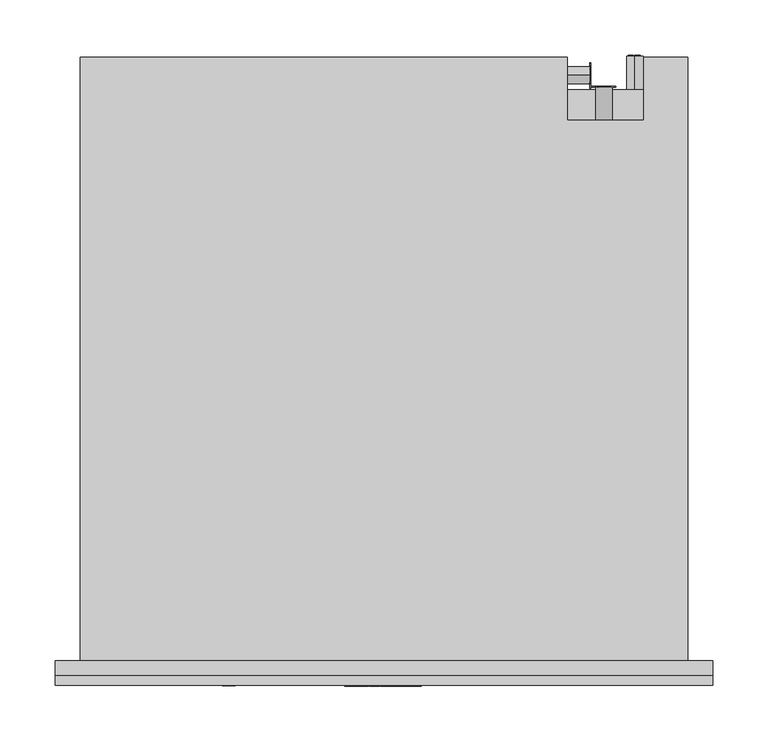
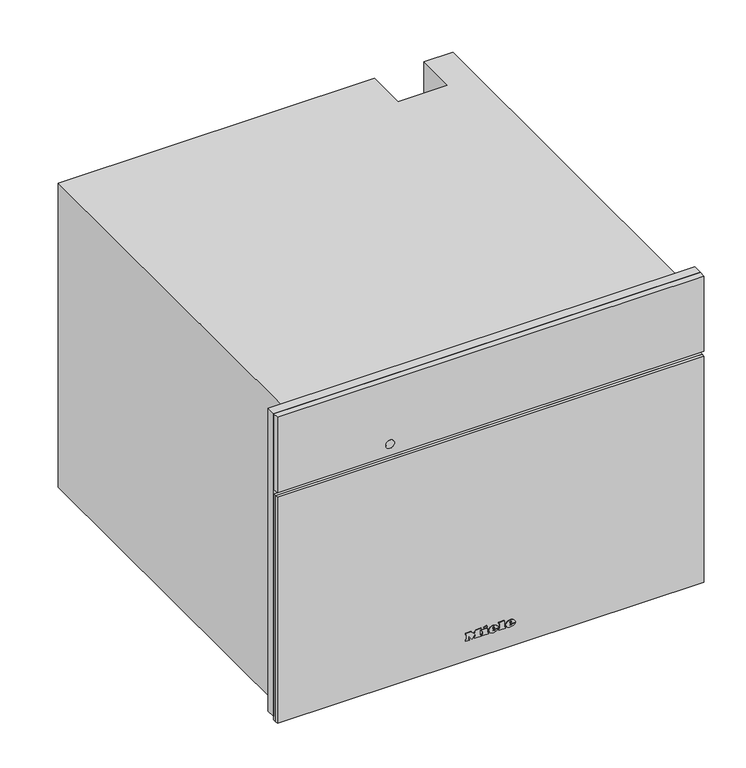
"""IFC4 building model written with IfcOpenShell, lengths in millimetres: proxy geometry, 12305570_D_DGC7845HCXPro_OBSWM : 23784588_D_12305570_DGC7845HCXPro_OBSWM."""

from ifc_helpers import new_model, si_unit, point, frame, frame_2d, origin, place, context, project, spatial, polyline, circle_curve, ellipse_curve, trimmed, segment, composite_curve, outline, extrude, faceted_brep, source, transform, mapped, element, save
from ifc_brep_helpers import plane_surface, cylinder_surface, revolved_surface, extruded_surface, advanced_brep


def specialty_equipment_60738759(model_context):
    return source(origin(), model_context, "Body", "SolidModel", [
        extrude(outline(polyline([(455.0, 297.5), (455.0, -297.5), (9.0, -297.5), (9.0, 297.5), (455.0, 297.5)]), holes=[polyline([(344.0, -272.5), (344.0, 272.5), (27.0, 272.5), (27.0, -272.5), (344.0, -272.5)])]), frame((0.0, -13.0, 0.0), z_axis=(0.0, 1.0, 0.0), x_axis=(0.0, 0.0, 1.0)), (0.0, 0.0, 1.0), 13.0),
        extrude(outline(polyline([(383.0, 196.9217896), (383.0, 198.4267862), (393.0435673, 201.1942402), (393.0435673, 199.9014806), (384.4295103, 197.7797951), (393.0470645, 195.3087512), (393.0470645, 193.4373937), (384.4121052, 190.9191482), (393.0472266, 188.8443938), (393.0472266, 187.5376524), (383.0, 190.2769667), (383.0, 191.6257455), (391.8347238, 194.3884733), (383.0, 196.9217896)])), frame((0.0, 519.0, 0.0), z_axis=(0.0, 1.0, 0.0), x_axis=(0.0, 0.0, 1.0)), (0.0, 0.0, 1.0), 1.0),
        extrude(outline(polyline([(393.0468463, 209.521488), (393.0468463, 208.2566067), (388.129594, 208.2566067), (393.0474898, 203.1074328), (393.0474898, 201.3597489), (388.9313111, 205.6695027), (383.0, 201.1858157), (383.0, 202.7358731), (388.0700777, 206.5685235), (386.4282746, 208.2823622), (383.0, 208.2823622), (383.0, 209.521488), (393.0468463, 209.521488)])), frame((0.0, 519.0, 0.0), z_axis=(0.0, 1.0, 0.0), x_axis=(0.0, 0.0, 1.0)), (0.0, 0.0, 1.0), 1.0),
        extrude(outline(polyline([(518.3136153, 20.0), (522.323529, 30.045631), (523.3928394, 30.045631), (527.4027531, 20.0), (526.0759254, 20.0), (524.925681, 23.1392597), (520.7882348, 23.1392597), (519.640443, 20.0), (518.3136153, 20.0)]), holes=[polyline([(521.2493136, 24.3949636), (524.4670548, 24.3949636), (523.5620651, 26.864678), (522.8581842, 28.7899271), (522.2327848, 27.0805021), (521.2493136, 24.3949636)])]), frame((186.0, 0.0, 0.0), z_axis=(1.0, 0.0, 0.0), x_axis=(0.0, 1.0, 0.0)), (0.0, 0.0, 1.0), 1.0),
        extrude(outline(polyline([(530.5420128, 20.0), (527.8025182, 30.045631), (529.0974628, 30.045631), (530.6867131, 23.4433755), (531.1772224, 21.4053092), (531.7020674, 23.207931), (533.6935352, 30.045631), (535.5599232, 30.045631), (537.0069257, 25.0890343), (538.0835937, 21.4053092), (538.5593878, 23.3845144), (540.1633533, 30.045631), (541.4582979, 30.045631), (538.7163507, 20.0), (537.3748077, 20.0), (534.9664069, 27.7500474), (534.630408, 28.8316204), (534.2527159, 27.5293182), (532.0576866, 20.0), (530.5420128, 20.0)])), frame((186.0, 0.0, 0.0), z_axis=(1.0, 0.0, 0.0), x_axis=(0.0, 1.0, 0.0)), (0.0, 0.0, 1.0), 1.0),
        advanced_brep(
        [(227.0, 547.0, 255.5), (227.0, 547.0, 240.5), (221.4098301, 547.0, 243.0), (225.5, 547.0, 243.0), (225.5, 547.0, 253.0), (224.4955303, 547.0, 253.0), (224.4955303, 547.0, 244.0), (221.0315043, 547.0, 244.0), (221.0315043, 547.0, 243.4582978), (232.0, 547.0, 243.0), (232.0, 547.0, 253.0), (227.0, 547.0, 253.0), (227.0, 547.0, 252.0), (231.0, 547.0, 252.0), (231.0, 547.0, 248.5), (228.0, 547.0, 248.5), (228.0, 547.0, 247.5), (231.0, 547.0, 247.5), (231.0, 547.0, 244.0), (227.0, 547.0, 244.0), (227.0, 547.0, 243.0), (227.0, 517.0, 240.5), (227.0, 517.0, 255.5), (232.0, 548.0, 253.0), (232.0, 548.0, 243.0), (227.0, 548.0, 243.0), (227.0, 548.0, 244.0), (231.0, 548.0, 244.0), (231.0, 548.0, 247.5), (228.0, 548.0, 247.5), (228.0, 548.0, 248.5), (231.0, 548.0, 248.5), (231.0, 548.0, 252.0), (227.0, 548.0, 252.0), (227.0, 548.0, 253.0), (225.5, 548.0, 243.0), (221.0315043, 548.0, 243.0), (221.0315043, 548.0, 244.0), (224.4955303, 548.0, 244.0), (224.4955303, 548.0, 253.0), (225.5, 548.0, 253.0), (221.0315043, 547.0, 243.0)],
        [
            (0, 1, circle_curve(frame((227.0, 547.0, 248.0), z_axis=(0.0, 1.0, 0.0), x_axis=(0.0, 0.0, 1.0)), 7.5)),
            (1, 2, circle_curve(frame((227.0, 547.0, 248.0), z_axis=(0.0, 1.0, 0.0), x_axis=(0.0, 0.0, 1.0)), 7.5)),
            (2, 3),
            (3, 4),
            (4, 5),
            (5, 6),
            (6, 7),
            (7, 8),
            (8, 0, circle_curve(frame((227.0, 547.0, 248.0), z_axis=(0.0, 1.0, 0.0), x_axis=(0.0, 0.0, 1.0)), 7.5)),
            (9, 10),
            (10, 11),
            (11, 12),
            (12, 13),
            (13, 14),
            (14, 15),
            (15, 16),
            (16, 17),
            (17, 18),
            (18, 19),
            (19, 20),
            (20, 9),
            (21, 22, circle_curve(frame((227.0, 517.0, 248.0), z_axis=(0.0, -1.0, 0.0), x_axis=(0.0, 0.0, 1.0)), 7.5)),
            (22, 21, circle_curve(frame((227.0, 517.0, 248.0), z_axis=(0.0, -1.0, 0.0), x_axis=(0.0, 0.0, 1.0)), 7.5)),
            (0, 22),
            (21, 1),
            (8, 2, circle_curve(frame((227.0, 547.0, 248.0), z_axis=(0.0, -1.0, 0.0), x_axis=(0.0, 0.0, 1.0)), 7.5)),
            (23, 24),
            (24, 25),
            (25, 26),
            (26, 27),
            (27, 28),
            (28, 29),
            (29, 30),
            (30, 31),
            (31, 32),
            (32, 33),
            (33, 34),
            (34, 23),
            (35, 36),
            (36, 37),
            (37, 38),
            (38, 39),
            (39, 40),
            (40, 35),
            (8, 41),
            (41, 2),
            (23, 10),
            (9, 24),
            (20, 25),
            (19, 26),
            (18, 27),
            (17, 28),
            (16, 29),
            (15, 30),
            (14, 31),
            (13, 32),
            (12, 33),
            (11, 34),
            (35, 3),
            (41, 36),
            (7, 37),
            (6, 38),
            (5, 39),
            (4, 40),
        ],
        [
            plane_surface(frame((227.0, 547.0, 255.5), z_axis=(0.0, 1.0, 0.0), x_axis=(1.0, 0.0, 0.0))),
            plane_surface(frame((227.0, 517.0, 255.5), z_axis=(0.0, -1.0, 0.0), x_axis=(-1.0, 0.0, 0.0))),
            cylinder_surface(frame((227.0, 547.0, 248.0), z_axis=(0.0, -1.0, 0.0), x_axis=(0.0, 0.0, 1.0)), 7.5),
            plane_surface(frame((232.0, 548.0, 253.0), z_axis=(0.0, 1.0, 0.0), x_axis=(0.0, 0.0, -1.0))),
            plane_surface(frame((232.0, 547.0, 253.0), z_axis=(0.0, -1.0, 0.0), x_axis=(0.0, 0.0, 1.0))),
            plane_surface(frame((232.0, 548.0, 253.0), z_axis=(1.0, 0.0, 0.0), x_axis=(0.0, -1.0, 0.0))),
            plane_surface(frame((232.0, 548.0, 243.0), z_axis=(0.0, 0.0, -1.0), x_axis=(0.0, -1.0, 0.0))),
            plane_surface(frame((227.0, 548.0, 243.0), z_axis=(-1.0, 0.0, 0.0), x_axis=(0.0, -1.0, 0.0))),
            plane_surface(frame((227.0, 548.0, 244.0), z_axis=(0.0, 0.0, 1.0), x_axis=(0.0, -1.0, 0.0))),
            plane_surface(frame((231.0, 548.0, 244.0), z_axis=(-1.0, 0.0, 0.0), x_axis=(0.0, -1.0, 0.0))),
            plane_surface(frame((231.0, 548.0, 247.5), z_axis=(0.0, 0.0, -1.0), x_axis=(0.0, -1.0, 0.0))),
            plane_surface(frame((228.0, 548.0, 247.5), z_axis=(-1.0, 0.0, 0.0), x_axis=(0.0, -1.0, 0.0))),
            plane_surface(frame((228.0, 548.0, 248.5), z_axis=(0.0, 0.0, 1.0), x_axis=(0.0, -1.0, 0.0))),
            plane_surface(frame((231.0, 548.0, 248.5), z_axis=(-1.0, 0.0, 0.0), x_axis=(0.0, -1.0, 0.0))),
            plane_surface(frame((231.0, 548.0, 252.0), z_axis=(0.0, 0.0, -1.0), x_axis=(0.0, -1.0, 0.0))),
            plane_surface(frame((227.0, 548.0, 252.0), z_axis=(-1.0, 0.0, 0.0), x_axis=(0.0, -1.0, 0.0))),
            plane_surface(frame((227.0, 548.0, 253.0), z_axis=(0.0, 0.0, 1.0), x_axis=(0.0, -1.0, 0.0))),
            plane_surface(frame((225.5, 548.0, 243.0), z_axis=(0.0, 0.0, -1.0), x_axis=(0.0, -1.0, 0.0))),
            plane_surface(frame((221.0315043, 548.0, 243.0), z_axis=(-1.0, 0.0, 0.0), x_axis=(0.0, -1.0, 0.0))),
            plane_surface(frame((221.0315043, 548.0, 244.0), z_axis=(0.0, 0.0, 1.0), x_axis=(0.0, -1.0, 0.0))),
            plane_surface(frame((224.4955303, 548.0, 244.0), z_axis=(-1.0, 0.0, 0.0), x_axis=(0.0, -1.0, 0.0))),
            plane_surface(frame((224.4955303, 548.0, 253.0), z_axis=(0.0, 0.0, 1.0), x_axis=(0.0, -1.0, 0.0))),
            plane_surface(frame((225.5, 548.0, 253.0), z_axis=(1.0, 0.0, 0.0), x_axis=(0.0, -1.0, 0.0))),
        ],
        [
            (0, [[1, 2, 3, 4, 5, 6, 7, 8, 9], [10, 11, 12, 13, 14, 15, 16, 17, 18, 19, 20, 21]]),
            (1, [[22, 23]]),
            (2, [[-1, 24, -22, 25]]),
            (2, [[-23, -24, -9, 26, -2, -25]]),
            (3, [[27, 28, 29, 30, 31, 32, 33, 34, 35, 36, 37, 38]]),
            (3, [[39, 40, 41, 42, 43, 44]]),
            (4, [[45, 46, -26]]),
            (5, [[-27, 47, -10, 48]]),
            (6, [[-28, -48, -21, 49]]),
            (7, [[-29, -49, -20, 50]]),
            (8, [[-30, -50, -19, 51]]),
            (9, [[-31, -51, -18, 52]]),
            (10, [[-32, -52, -17, 53]]),
            (11, [[-33, -53, -16, 54]]),
            (12, [[-34, -54, -15, 55]]),
            (13, [[-35, -55, -14, 56]]),
            (14, [[-36, -56, -13, 57]]),
            (15, [[-37, -57, -12, 58]]),
            (16, [[-38, -58, -11, -47]]),
            (17, [[-39, 59, -3, -46, 60]]),
            (18, [[-40, -60, -45, -8, 61]]),
            (19, [[-41, -61, -7, 62]]),
            (20, [[-42, -62, -6, 63]]),
            (21, [[-43, -63, -5, 64]]),
            (22, [[-44, -64, -4, -59]]),
        ],
    ),
        extrude(outline(composite_curve([segment(trimmed(circle_curve(frame_2d((388.0, 199.0)), 7.5), [point((388.0, 206.5))], [point((388.0, 191.5))], False, "CARTESIAN"), True, "CONTINUOUS"), segment(trimmed(circle_curve(frame_2d((388.0, 199.0)), 7.5), [point((388.0, 191.5))], [point((388.0, 206.5))], False, "CARTESIAN"), True, "CONTINUOUS")], self_intersect=False)), frame((0.0, 489.0, 0.0), z_axis=(0.0, 1.0, 0.0), x_axis=(0.0, 0.0, 1.0)), (0.0, 0.0, 1.0), 30.0),
        extrude(outline(composite_curve([segment(trimmed(circle_curve(frame_2d((530.0, 25.0)), 7.5), [point((530.0, 17.5))], [point((530.0, 32.5))], False, "CARTESIAN"), True, "CONTINUOUS"), segment(trimmed(circle_curve(frame_2d((530.0, 25.0)), 7.5), [point((530.0, 32.5))], [point((530.0, 17.5))], False, "CARTESIAN"), True, "CONTINUOUS")], self_intersect=False)), frame((166.0, 0.0, 0.0), z_axis=(1.0, 0.0, 0.0), x_axis=(0.0, 1.0, 0.0)), (0.0, 0.0, 1.0), 20.0),
        faceted_brep([(-275.0, 546.0, 0.0), (-275.0, 546.0, 448.0), (166.0, 546.0, 448.0), (166.0, 546.0, 0.0), (235.0, 546.0, 448.0), (275.0, 546.0, 448.0), (275.0, 546.0, 338.0), (235.0, 546.0, 338.0), (275.0, 0.0, 448.0), (-275.0, 0.0, 448.0), (-275.0, 0.0, 0.0), (275.0, 0.0, 0.0), (-272.5, 0.0, 344.0), (272.5, 0.0, 344.0), (272.5, 0.0, 27.0), (-272.5, 0.0, 27.0), (235.0, 489.0, 448.0), (166.0, 489.0, 448.0), (166.0, 517.0, 0.0), (275.0, 517.0, 0.0), (275.0, 517.0, 338.0), (272.5, 17.0, 344.0), (-272.5, 17.0, 344.0), (-272.5, 17.0, 27.0), (272.5, 17.0, 27.0), (231.0, 17.0, 307.0), (231.0, 17.0, 65.0), (-231.0, 17.0, 65.0), (-231.0, 17.0, 307.0), (231.0, 411.0, 307.0), (-231.0, 411.0, 307.0), (-231.0, 411.0, 65.0), (231.0, 411.0, 65.0), (235.0, 489.0, 337.0), (166.0, 489.0, 337.0), (166.0, 517.0, 337.0), (235.0, 517.0, 337.0), (235.0, 517.0, 338.0)], [[[0, 1, 2, 3]], [[4, 5, 6, 7]], [[8, 9, 10, 11], [12, 13, 14, 15]], [[9, 8, 5, 4, 16, 17, 2, 1]], [[1, 0, 10, 9]], [[11, 10, 0, 3, 18, 19]], [[8, 11, 19, 20, 6, 5]], [[21, 22, 23, 24], [25, 26, 27, 28]], [[22, 21, 13, 12]], [[23, 22, 12, 15]], [[24, 23, 15, 14]], [[21, 24, 14, 13]], [[29, 30, 31, 32]], [[29, 32, 26, 25]], [[32, 31, 27, 26]], [[31, 30, 28, 27]], [[30, 29, 25, 28]], [[16, 33, 34, 17]], [[17, 34, 35, 18, 3, 2]], [[34, 33, 36, 35]], [[33, 16, 4, 7, 37, 36]], [[37, 20, 19, 18, 35, 36]], [[20, 37, 7, 6]]]),
        advanced_brep(
        [(26.2998, -23.0, 36.7018), (26.2998, -23.0, 37.8532), (33.9264, -23.0, 37.8532), (20.6568, -23.0, 37.8532), (23.7918, -23.0, 34.0), (33.7326, -23.0, 36.7018), (30.2898, -23.0, 36.7018), (27.5766, -23.0, 35.425), (26.2998, -23.0, 39.3124), (26.2998, -23.0, 40.555), (28.2492, -23.0, 40.555), (28.2492, -23.0, 39.3124), (26.2998, -22.0, 36.7018), (27.5766, -22.0, 35.425), (30.2898, -22.0, 36.7018), (33.7326, -22.0, 36.7018), (23.7918, -22.0, 34.0), (20.6568, -22.0, 37.8532), (33.9264, -22.0, 37.8532), (26.2998, -22.0, 37.8532), (26.2998, -22.0, 39.3124), (28.2492, -22.0, 39.3124), (28.2492, -22.0, 40.555), (26.2998, -22.0, 40.555)],
        [
            (0, 1),
            (1, 2),
            (2, 3, ellipse_curve(frame((27.2916, -23.0, 37.8532), z_axis=(0.0, -1.0, 0.0), x_axis=(-1.0, 0.0, 0.0)), 6.6348, 5.4834)),
            (3, 4, circle_curve(frame((25.0686622, -23.0, 38.2408), z_axis=(0.0, -1.0, 0.0), x_axis=(0.0, 0.0, -1.0)), 4.4288556)),
            (4, 5, circle_curve(frame((27.1587808, -23.0, 41.2504), z_axis=(0.0, -1.0, 0.0), x_axis=(0.0, 0.0, -1.0)), 7.9940516)),
            (5, 6),
            (6, 7, circle_curve(frame((28.1338588, -23.0, 37.762), z_axis=(0.0, 1.0, 0.0), x_axis=(0.0, 0.0, -1.0)), 2.4025208)),
            (7, 0, circle_curve(frame((27.5766, -23.0, 36.7018), z_axis=(0.0, 1.0, 0.0), x_axis=(0.0, 0.0, -1.0)), 1.2768)),
            (8, 9),
            (9, 10, circle_curve(frame((27.2745, -23.0, 40.555), z_axis=(0.0, 1.0, 0.0), x_axis=(0.0, 0.0, -1.0)), 0.9747)),
            (10, 11),
            (11, 8),
            (12, 13, circle_curve(frame((27.5766, -22.0, 36.7018), z_axis=(0.0, -1.0, 0.0), x_axis=(0.0, 0.0, -1.0)), 1.2768)),
            (13, 14, circle_curve(frame((28.1338588, -22.0, 37.762), z_axis=(0.0, -1.0, 0.0), x_axis=(0.0, 0.0, -1.0)), 2.4025208)),
            (14, 15),
            (15, 16, circle_curve(frame((27.1587808, -22.0, 41.2504), z_axis=(0.0, 1.0, 0.0), x_axis=(0.0, 0.0, -1.0)), 7.9940516)),
            (16, 17, circle_curve(frame((25.0686622, -22.0, 38.2408), z_axis=(0.0, 1.0, 0.0), x_axis=(0.0, 0.0, -1.0)), 4.4288556)),
            (17, 18, ellipse_curve(frame((27.2916, -22.0, 37.8532), z_axis=(0.0, 1.0, 0.0), x_axis=(-1.0, 0.0, 0.0)), 6.6348, 5.4834)),
            (18, 19),
            (19, 12),
            (20, 21),
            (21, 22),
            (22, 23, circle_curve(frame((27.2745, -22.0, 40.555), z_axis=(0.0, -1.0, 0.0), x_axis=(0.0, 0.0, -1.0)), 0.9747)),
            (23, 20),
            (0, 12),
            (19, 1),
            (18, 2),
            (5, 15),
            (14, 6),
            (17, 3),
            (13, 7),
            (16, 4),
            (8, 20),
            (23, 9),
            (22, 10),
            (21, 11),
        ],
        [
            plane_surface(frame((26.2998, -23.0, 37.8532), z_axis=(0.0, -1.0, 0.0), x_axis=(0.0, 0.0, 1.0))),
            plane_surface(frame((26.2998, -22.0, 37.8532), z_axis=(0.0, 1.0, 0.0), x_axis=(0.0, 0.0, -1.0))),
            plane_surface(frame((26.2998, -23.0, 36.7018), z_axis=(1.0, 0.0, 0.0), x_axis=(0.0, 1.0, 0.0))),
            plane_surface(frame((26.2998, -23.0, 37.8532), z_axis=(0.0, 0.0, -1.0), x_axis=(0.0, 1.0, 0.0))),
            plane_surface(frame((33.7326, -23.0, 36.7018), z_axis=(0.0, 0.0, 1.0), x_axis=(0.0, 1.0, 0.0))),
            extruded_surface(trimmed(ellipse_curve(frame((27.2916, -21.0, 37.8532), z_axis=(0.0, -1.0, 0.0), x_axis=(-1.0, 0.0, 0.0)), 6.6348, 5.4834), [point((33.9264, -21.0, 37.8532))], [point((20.6568, -21.0, 37.8532))], True, "CARTESIAN"), (0.0, -1.0, 0.0), 1.0),
            revolved_surface(polyline([(28.1338588, -22.0, 35.3594792), (28.1338588, -23.0, 35.3594792)]), (28.1338588, -22.0, 37.762), (0.0, 1.0, 0.0)),
            revolved_surface(polyline([(27.5766, -22.0, 35.425), (27.5766, -23.0, 35.425)]), (27.5766, -22.0, 36.7018), (0.0, 1.0, 0.0)),
            cylinder_surface(frame((25.0686622, -22.0, 38.2408), z_axis=(0.0, -1.0, 0.0), x_axis=(0.0, 0.0, -1.0)), 4.4288556),
            cylinder_surface(frame((27.1587808, -22.0, 41.2504), z_axis=(0.0, -1.0, 0.0), x_axis=(0.0, 0.0, -1.0)), 7.9940516),
            plane_surface(frame((26.2998, -23.0, 39.3124), z_axis=(1.0, 0.0, 0.0), x_axis=(0.0, 1.0, 0.0))),
            revolved_surface(polyline([(27.2745, -22.0, 39.5803), (27.2745, -23.0, 39.5803)]), (27.2745, -22.0, 40.555), (0.0, 1.0, 0.0)),
            plane_surface(frame((28.2492, -23.0, 40.555), z_axis=(-1.0, 0.0, 0.0), x_axis=(0.0, 1.0, 0.0))),
            plane_surface(frame((28.2492, -23.0, 39.3124), z_axis=(0.0, 0.0, 1.0), x_axis=(0.0, 1.0, 0.0))),
        ],
        [
            (0, [[1, 2, 3, 4, 5, 6, 7, 8], [9, 10, 11, 12]]),
            (1, [[13, 14, 15, 16, 17, 18, 19, 20], [21, 22, 23, 24]]),
            (2, [[-1, 25, -20, 26]]),
            (3, [[-2, -26, -19, 27]]),
            (4, [[-6, 28, -15, 29]]),
            (5, [[-3, -27, -18, 30]]),
            (6, [[-7, -29, -14, 31]]),
            (7, [[-8, -31, -13, -25]]),
            (8, [[-4, -30, -17, 32]]),
            (9, [[-5, -32, -16, -28]]),
            (10, [[-9, 33, -24, 34]]),
            (11, [[-10, -34, -23, 35]]),
            (12, [[-11, -35, -22, 36]]),
            (13, [[-12, -36, -21, -33]]),
        ],
    ),
        advanced_brep(
        [(2.508, -23.0, 36.7018), (2.508, -23.0, 37.8532), (10.1346, -23.0, 37.8532), (-3.135, -23.0, 37.8532), (0.0, -23.0, 34.0), (9.9408, -23.0, 36.7018), (6.498, -23.0, 36.7018), (3.7848, -23.0, 35.425), (2.508, -23.0, 39.3124), (2.508, -23.0, 40.555), (4.4574, -23.0, 40.555), (4.4574, -23.0, 39.3124), (2.508, -22.0, 36.7018), (3.7848, -22.0, 35.425), (6.498, -22.0, 36.7018), (9.9408, -22.0, 36.7018), (0.0, -22.0, 34.0), (-3.135, -22.0, 37.8532), (10.1346, -22.0, 37.8532), (2.508, -22.0, 37.8532), (2.508, -22.0, 39.3124), (4.4574, -22.0, 39.3124), (4.4574, -22.0, 40.555), (2.508, -22.0, 40.555)],
        [
            (0, 1),
            (1, 2),
            (2, 3, ellipse_curve(frame((3.4998, -23.0, 37.8532), z_axis=(0.0, -1.0, 0.0), x_axis=(-1.0, 0.0, 0.0)), 6.6348, 5.4834)),
            (3, 4, circle_curve(frame((1.2768622, -23.0, 38.2408), z_axis=(0.0, -1.0, 0.0), x_axis=(0.0, 0.0, -1.0)), 4.4288556)),
            (4, 5, circle_curve(frame((3.3669808, -23.0, 41.2504), z_axis=(0.0, -1.0, 0.0), x_axis=(0.0, 0.0, -1.0)), 7.9940516)),
            (5, 6),
            (6, 7, circle_curve(frame((4.3420588, -23.0, 37.762), z_axis=(0.0, 1.0, 0.0), x_axis=(0.0, 0.0, -1.0)), 2.4025208)),
            (7, 0, circle_curve(frame((3.7848, -23.0, 36.7018), z_axis=(0.0, 1.0, 0.0), x_axis=(0.0, 0.0, -1.0)), 1.2768)),
            (8, 9),
            (9, 10, circle_curve(frame((3.4827, -23.0, 40.555), z_axis=(0.0, 1.0, 0.0), x_axis=(0.0, 0.0, -1.0)), 0.9747)),
            (10, 11),
            (11, 8),
            (12, 13, circle_curve(frame((3.7848, -22.0, 36.7018), z_axis=(0.0, -1.0, 0.0), x_axis=(0.0, 0.0, -1.0)), 1.2768)),
            (13, 14, circle_curve(frame((4.3420588, -22.0, 37.762), z_axis=(0.0, -1.0, 0.0), x_axis=(0.0, 0.0, -1.0)), 2.4025208)),
            (14, 15),
            (15, 16, circle_curve(frame((3.3669808, -22.0, 41.2504), z_axis=(0.0, 1.0, 0.0), x_axis=(0.0, 0.0, -1.0)), 7.9940516)),
            (16, 17, circle_curve(frame((1.2768622, -22.0, 38.2408), z_axis=(0.0, 1.0, 0.0), x_axis=(0.0, 0.0, -1.0)), 4.4288556)),
            (17, 18, ellipse_curve(frame((3.4998, -22.0, 37.8532), z_axis=(0.0, 1.0, 0.0), x_axis=(-1.0, 0.0, 0.0)), 6.6348, 5.4834)),
            (18, 19),
            (19, 12),
            (20, 21),
            (21, 22),
            (22, 23, circle_curve(frame((3.4827, -22.0, 40.555), z_axis=(0.0, -1.0, 0.0), x_axis=(0.0, 0.0, -1.0)), 0.9747)),
            (23, 20),
            (0, 12),
            (19, 1),
            (18, 2),
            (5, 15),
            (14, 6),
            (17, 3),
            (13, 7),
            (16, 4),
            (8, 20),
            (23, 9),
            (22, 10),
            (21, 11),
        ],
        [
            plane_surface(frame((2.508, -23.0, 37.8532), z_axis=(0.0, -1.0, 0.0), x_axis=(0.0, 0.0, 1.0))),
            plane_surface(frame((2.508, -22.0, 37.8532), z_axis=(0.0, 1.0, 0.0), x_axis=(0.0, 0.0, -1.0))),
            plane_surface(frame((2.508, -23.0, 36.7018), z_axis=(1.0, 0.0, 0.0), x_axis=(0.0, 1.0, 0.0))),
            plane_surface(frame((2.508, -23.0, 37.8532), z_axis=(0.0, 0.0, -1.0), x_axis=(0.0, 1.0, 0.0))),
            plane_surface(frame((9.9408, -23.0, 36.7018), z_axis=(0.0, 0.0, 1.0), x_axis=(0.0, 1.0, 0.0))),
            extruded_surface(trimmed(ellipse_curve(frame((3.4998, -21.0, 37.8532), z_axis=(0.0, -1.0, 0.0), x_axis=(-1.0, 0.0, 0.0)), 6.6348, 5.4834), [point((10.1346, -21.0, 37.8532))], [point((-3.135, -21.0, 37.8532))], True, "CARTESIAN"), (0.0, -1.0, 0.0), 1.0),
            revolved_surface(polyline([(4.3420588, -22.0, 35.3594792), (4.3420588, -23.0, 35.3594792)]), (4.3420588, -22.0, 37.762), (0.0, 1.0, 0.0)),
            revolved_surface(polyline([(3.7848, -22.0, 35.425), (3.7848, -23.0, 35.425)]), (3.7848, -22.0, 36.7018), (0.0, 1.0, 0.0)),
            cylinder_surface(frame((1.2768622, -22.0, 38.2408), z_axis=(0.0, -1.0, 0.0), x_axis=(0.0, 0.0, -1.0)), 4.4288556),
            cylinder_surface(frame((3.3669808, -22.0, 41.2504), z_axis=(0.0, -1.0, 0.0), x_axis=(0.0, 0.0, -1.0)), 7.9940516),
            plane_surface(frame((2.508, -23.0, 39.3124), z_axis=(1.0, 0.0, 0.0), x_axis=(0.0, 1.0, 0.0))),
            revolved_surface(polyline([(3.4827, -22.0, 39.5803), (3.4827, -23.0, 39.5803)]), (3.4827, -22.0, 40.555), (0.0, 1.0, 0.0)),
            plane_surface(frame((4.4574, -23.0, 40.555), z_axis=(-1.0, 0.0, 0.0), x_axis=(0.0, 1.0, 0.0))),
            plane_surface(frame((4.4574, -23.0, 39.3124), z_axis=(0.0, 0.0, 1.0), x_axis=(0.0, 1.0, 0.0))),
        ],
        [
            (0, [[1, 2, 3, 4, 5, 6, 7, 8], [9, 10, 11, 12]]),
            (1, [[13, 14, 15, 16, 17, 18, 19, 20], [21, 22, 23, 24]]),
            (2, [[-1, 25, -20, 26]]),
            (3, [[-2, -26, -19, 27]]),
            (4, [[-6, 28, -15, 29]]),
            (5, [[-3, -27, -18, 30]]),
            (6, [[-7, -29, -14, 31]]),
            (7, [[-8, -31, -13, -25]]),
            (8, [[-4, -30, -17, 32]]),
            (9, [[-5, -32, -16, -28]]),
            (10, [[-9, 33, -24, 34]]),
            (11, [[-10, -34, -23, 35]]),
            (12, [[-11, -35, -22, 36]]),
            (13, [[-12, -36, -21, -33]]),
        ],
    ),
        extrude(outline(polyline([(44.7274, -9.9522), (42.8806, -9.0858), (44.6818, -5.2212), (46.5286, -6.0762), (44.7274, -9.9522)])), frame((0.0, -23.0, 0.0), z_axis=(0.0, 1.0, 0.0), x_axis=(0.0, 0.0, 1.0)), (0.0, 0.0, 1.0), 1.0),
        extrude(outline(polyline([(42.6298, -12.768), (40.5892, -12.768), (40.5892, -11.4114), (35.9152, -11.4114), (35.9152, -12.768), (34.0, -12.768), (34.0, -3.7734), (35.9152, -3.7734), (35.9152, -5.0958), (42.6298, -5.0958), (42.6298, -12.768)])), frame((0.0, -23.0, 0.0), z_axis=(0.0, 1.0, 0.0), x_axis=(0.0, 0.0, 1.0)), (0.0, 0.0, 1.0), 1.0),
        extrude(outline(polyline([(43.5418, 10.773), (43.5418, 12.141), (35.9152, 12.141), (35.9152, 10.773), (34.0, 10.773), (34.0, 20.0184), (35.9152, 20.0184), (35.9152, 18.6162), (45.4, 18.6162), (45.4, 10.773), (43.5418, 10.773)])), frame((0.0, -23.0, 0.0), z_axis=(0.0, 1.0, 0.0), x_axis=(0.0, 0.0, 1.0)), (0.0, 0.0, 1.0), 1.0),
        extrude(outline(polyline([(43.5418, -35.4882), (43.5418, -34.1088), (35.9152, -34.1088), (35.9152, -35.4882), (34.0, -35.4882), (34.0, -30.4722), (35.9152, -30.4722), (35.9152, -31.8402), (40.7429247, -31.8402), (34.0, -26.7444), (40.9402223, -21.6258), (35.9152, -21.6258), (35.9152, -23.028), (34.0, -23.028), (34.0, -13.9308), (35.9152, -13.9308), (35.9152, -15.3786), (43.5418, -15.3786), (43.5418, -13.9308), (45.4, -13.9308), (45.4, -20.8734), (41.125, -24.2022), (45.4, -27.5424), (45.4, -35.4882), (43.5418, -35.4882)])), frame((0.0, -23.0, 0.0), z_axis=(0.0, 1.0, 0.0), x_axis=(0.0, 0.0, 1.0)), (0.0, 0.0, 1.0), 1.0),
        extrude(outline(polyline([(297.5, -22.0), (-297.5, -22.0), (-297.5, -13.0), (297.5, -13.0), (297.5, -22.0)])), frame((0.0, 0.0, 344.0), z_axis=(0.0, 0.0, 1.0), x_axis=(1.0, 0.0, 0.0)), (0.0, 0.0, 1.0), 111.0),
        extrude(outline(composite_curve([segment(trimmed(circle_curve(frame_2d((361.0, -140.5745637)), 6.0), [point((361.0, -146.5745637))], [point((361.0, -134.5745637))], False, "CARTESIAN"), True, "CONTINUOUS"), segment(trimmed(circle_curve(frame_2d((361.0, -140.5745637)), 6.0), [point((361.0, -134.5745637))], [point((361.0, -146.5745637))], False, "CARTESIAN"), True, "CONTINUOUS")], self_intersect=False)), frame((0.0, -22.5, 0.0), z_axis=(0.0, 1.0, 0.0), x_axis=(0.0, 0.0, 1.0)), (0.0, 0.0, 1.0), 1.0),
        extrude(outline(polyline([(-297.5, -18.0), (297.5, -18.0), (297.5, -22.0), (-297.5, -22.0), (-297.5, -18.0)])), frame((0.0, 0.0, 4.0), z_axis=(0.0, 0.0, 1.0), x_axis=(1.0, 0.0, 0.0)), (0.0, 0.0, 1.0), 333.0),
        extrude(outline(polyline([(297.5, -18.0), (-297.5, -18.0), (-297.5, -13.0), (297.5, -13.0), (297.5, -18.0)])), frame((0.0, 0.0, 4.0), z_axis=(0.0, 0.0, 1.0), x_axis=(1.0, 0.0, 0.0)), (0.0, 0.0, 1.0), 333.0),
    ])


if __name__ == "__main__":
    model = new_model("IFC4")
    model_context = context("Model", 3, world=origin())
    ifc_project = project(units=[si_unit("LENGTHUNIT", "METRE", prefix="MILLI")], contexts=[model_context])
    site = spatial("IfcSite", under=ifc_project)
    building = spatial("IfcBuilding", under=site)
    placement = place(None, origin())
    specialty_equipment_shape = specialty_equipment_60738759(model_context)
    element("IfcBuildingElementProxy", 1, Name="12305570_D_DGC7845HCXPro_OBSWM : 23784588_D_12305570_DGC7845HCXPro_OBSWM", ObjectType="12305570_D_DGC7845HCXPro_OBSWM : 23784588_D_12305570_DGC7845HCXPro_OBSWM", at=placement, inside=building, context=model_context, shape_type="MappedRepresentation", body=[
        mapped(specialty_equipment_shape, transform((0.0, 0.0, 0.0), x_axis=(1.0, 0.0, 0.0), y_axis=(0.0, 1.0, 0.0), z_axis=(0.0, 0.0, 1.0))),
    ])
    save(model, "model.ifc")
